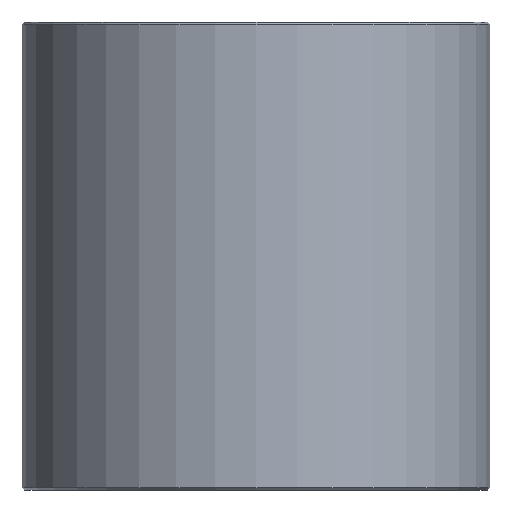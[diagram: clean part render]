
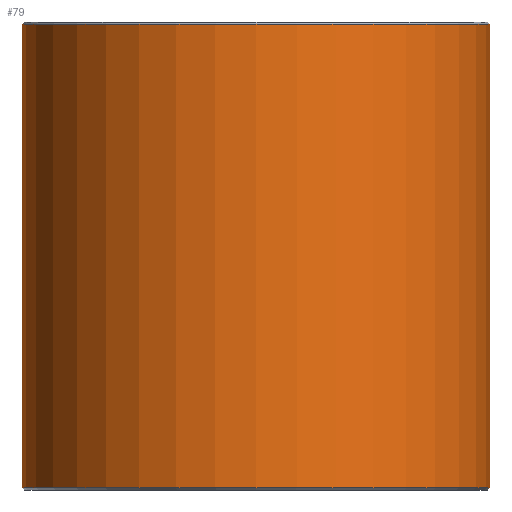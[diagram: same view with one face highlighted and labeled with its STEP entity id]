
A CAD part, front view. The second image highlights one B-rep face of the part: STEP entity #79.
In plain terms, the highlighted cylindrical face has radius 20 mm (diameter 40 mm), a full revolution.
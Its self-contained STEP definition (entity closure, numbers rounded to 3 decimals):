
#79=ADVANCED_FACE('',(#96,#97),#98,.T.);
#96=FACE_OUTER_BOUND('',#120,.T.);
#97=FACE_OUTER_BOUND('',#121,.T.);
#98=CYLINDRICAL_SURFACE('',#122,20.0);
#120=EDGE_LOOP('',(#152));
#121=EDGE_LOOP('',(#153));
#122=AXIS2_PLACEMENT_3D('',#154,#155,#156);
#152=ORIENTED_EDGE('',*,*,#178,.T.);
#153=ORIENTED_EDGE('',*,*,#177,.T.);
#154=CARTESIAN_POINT('',(0.,0.0,40.0));
#155=DIRECTION('',(0.0,0.0,-1.0));
#156=DIRECTION('',(-1.0,0.0,0.0));
#177=EDGE_CURVE('',#190,#190,#191,.T.);
#178=EDGE_CURVE('',#192,#192,#193,.F.);
#190=VERTEX_POINT('',#206);
#191=CIRCLE('',#207,20.0);
#192=VERTEX_POINT('',#208);
#193=CIRCLE('',#209,20.0);
#206=CARTESIAN_POINT('',(20.0,0.0,0.2));
#207=AXIS2_PLACEMENT_3D('',#227,#228,#229);
#208=CARTESIAN_POINT('',(20.0,0.,39.8));
#209=AXIS2_PLACEMENT_3D('',#230,#231,#232);
#227=CARTESIAN_POINT('',(0.,0.0,0.2));
#228=DIRECTION('',(0.0,0.0,1.0));
#229=DIRECTION('',(1.0,0.0,0.0));
#230=CARTESIAN_POINT('',(0.,0.0,39.8));
#231=DIRECTION('',(0.0,0.0,1.0));
#232=DIRECTION('',(1.0,0.0,0.0));
